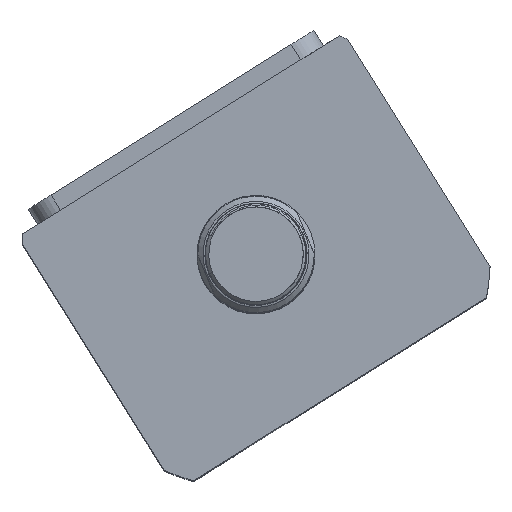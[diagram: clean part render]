
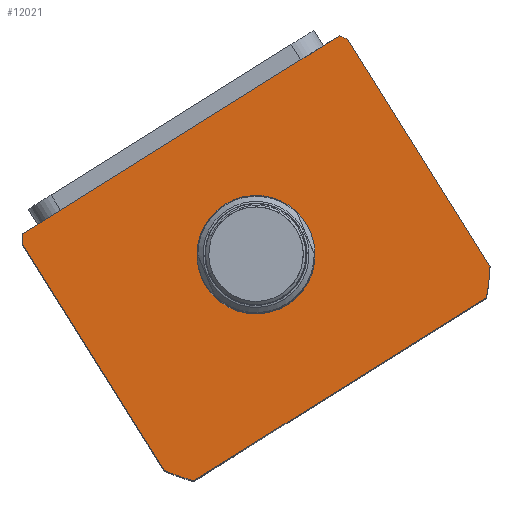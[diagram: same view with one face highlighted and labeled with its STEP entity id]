
A CAD part, top view. The second image highlights one B-rep face of the part: STEP entity #12021.
In plain terms, the highlighted planar face has unit normal (0, 0, 1) as drawn and (0, 0, -1) by its records, which use the part's own axes.
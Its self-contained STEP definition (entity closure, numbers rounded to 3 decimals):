
#661 = FACE_BOUND ( 'NONE', #13777, .T. ) ;
#1130 = ORIENTED_EDGE ( 'NONE', *, *, #12966, .F. ) ;
#1733 = CIRCLE ( 'NONE', #27547, 17.5 ) ;
#2199 = ORIENTED_EDGE ( 'NONE', *, *, #17024, .F. ) ;
#2302 = CARTESIAN_POINT ( 'NONE',  ( 51.198, -106.497, 0. ) ) ;
#2580 = CARTESIAN_POINT ( 'NONE',  ( 0., -59.497, 0. ) ) ;
#3045 = EDGE_CURVE ( 'NONE', #8653, #10932, #8684, .T. ) ;
#3367 = CARTESIAN_POINT ( 'NONE',  ( -57., -17.497, 0. ) ) ;
#3778 = VECTOR ( 'NONE', #19957, 1000. ) ;
#4776 = DIRECTION ( 'NONE',  ( 1., 0., 0. ) ) ;
#4936 = EDGE_CURVE ( 'NONE', #21967, #16767, #8084, .T. ) ;
#5815 = AXIS2_PLACEMENT_3D ( 'NONE', #21946, #7425, #22632 ) ;
#5899 = CARTESIAN_POINT ( 'NONE',  ( 17.5, -59.497, 0. ) ) ;
#7093 = CARTESIAN_POINT ( 'NONE',  ( 0., -59.497, 0. ) ) ;
#7235 = PLANE ( 'NONE',  #7347 ) ;
#7271 = CARTESIAN_POINT ( 'NONE',  ( -57., -19.732, 0. ) ) ;
#7347 = AXIS2_PLACEMENT_3D ( 'NONE', #18143, #11396, #9463 ) ;
#7356 = DIRECTION ( 'NONE',  ( 0., 0., 1. ) ) ;
#7419 = AXIS2_PLACEMENT_3D ( 'NONE', #20439, #7356, #22559 ) ;
#7425 = DIRECTION ( 'NONE',  ( 0., 0., 1. ) ) ;
#7986 = VECTOR ( 'NONE', #18763, 1000. ) ;
#8084 = CIRCLE ( 'NONE', #5815, 69.5 ) ;
#8164 = ORIENTED_EDGE ( 'NONE', *, *, #4936, .F. ) ;
#8562 = CARTESIAN_POINT ( 'NONE',  ( -57., -106.497, 0. ) ) ;
#8653 = VERTEX_POINT ( 'NONE', #7271 ) ;
#8684 = LINE ( 'NONE', #3367, #7986 ) ;
#9072 = VERTEX_POINT ( 'NONE', #23499 ) ;
#9090 = ORIENTED_EDGE ( 'NONE', *, *, #13301, .T. ) ;
#9130 = CARTESIAN_POINT ( 'NONE',  ( 0., -59.497, 0. ) ) ;
#9144 = DIRECTION ( 'NONE',  ( 0., 0., 1. ) ) ;
#9308 = DIRECTION ( 'NONE',  ( 1., 0., 0. ) ) ;
#9463 = DIRECTION ( 'NONE',  ( 1., 0., 0. ) ) ;
#9547 = VECTOR ( 'NONE', #16770, 1000. ) ;
#10932 = VERTEX_POINT ( 'NONE', #25574 ) ;
#10948 = FACE_OUTER_BOUND ( 'NONE', #18214, .T. ) ;
#11349 = DIRECTION ( 'NONE',  ( 1., 0., 0. ) ) ;
#11396 = DIRECTION ( 'NONE',  ( 0., 0., 1. ) ) ;
#12021 = ADVANCED_FACE ( 'NONE', ( #661, #10948 ), #7235, .F. ) ;
#12966 = EDGE_CURVE ( 'NONE', #21740, #23454, #26747, .T. ) ;
#13036 = CARTESIAN_POINT ( 'NONE',  ( 57., -99.262, 0. ) ) ;
#13301 = EDGE_CURVE ( 'NONE', #16088, #23388, #1733, .T. ) ;
#13628 = VERTEX_POINT ( 'NONE', #14146 ) ;
#13777 = EDGE_LOOP ( 'NONE', ( #9090, #23630 ) ) ;
#14146 = CARTESIAN_POINT ( 'NONE',  ( 57., -19.732, 0. ) ) ;
#14771 = AXIS2_PLACEMENT_3D ( 'NONE', #22157, #9144, #24247 ) ;
#16088 = VERTEX_POINT ( 'NONE', #5899 ) ;
#16629 = CARTESIAN_POINT ( 'NONE',  ( 55.374, -17.497, 0. ) ) ;
#16767 = VERTEX_POINT ( 'NONE', #13036 ) ;
#16770 = DIRECTION ( 'NONE',  ( 1., 0., 0. ) ) ;
#17024 = EDGE_CURVE ( 'NONE', #10932, #9072, #18759, .T. ) ;
#17299 = CIRCLE ( 'NONE', #24804, 69.5 ) ;
#17329 = EDGE_CURVE ( 'NONE', #23388, #16088, #23086, .T. ) ;
#17663 = CARTESIAN_POINT ( 'NONE',  ( -17.5, -59.497, 0. ) ) ;
#17764 = CARTESIAN_POINT ( 'NONE',  ( -57., -17.497, 0. ) ) ;
#17880 = DIRECTION ( 'NONE',  ( 0., 0., 1. ) ) ;
#18143 = CARTESIAN_POINT ( 'NONE',  ( 0., 0., 0. ) ) ;
#18214 = EDGE_LOOP ( 'NONE', ( #20015, #27787, #8164, #24878, #2199, #20620, #18583, #1130 ) ) ;
#18583 = ORIENTED_EDGE ( 'NONE', *, *, #24542, .F. ) ;
#18759 = CIRCLE ( 'NONE', #7419, 69.5 ) ;
#18763 = DIRECTION ( 'NONE',  ( 0., -1., 0. ) ) ;
#19957 = DIRECTION ( 'NONE',  ( -1., 0., 0. ) ) ;
#20015 = ORIENTED_EDGE ( 'NONE', *, *, #25142, .F. ) ;
#20018 = VECTOR ( 'NONE', #27727, 1000. ) ;
#20439 = CARTESIAN_POINT ( 'NONE',  ( 0., -59.497, 0. ) ) ;
#20620 = ORIENTED_EDGE ( 'NONE', *, *, #3045, .F. ) ;
#20677 = LINE ( 'NONE', #25639, #20018 ) ;
#21740 = VERTEX_POINT ( 'NONE', #16629 ) ;
#21946 = CARTESIAN_POINT ( 'NONE',  ( 0., -59.497, 0. ) ) ;
#21967 = VERTEX_POINT ( 'NONE', #2302 ) ;
#22157 = CARTESIAN_POINT ( 'NONE',  ( 0., -59.497, 0. ) ) ;
#22312 = DIRECTION ( 'NONE',  ( 0., 0., 1. ) ) ;
#22559 = DIRECTION ( 'NONE',  ( 1., 0., 0. ) ) ;
#22632 = DIRECTION ( 'NONE',  ( 1., 0., 0. ) ) ;
#23086 = CIRCLE ( 'NONE', #14771, 17.5 ) ;
#23243 = EDGE_CURVE ( 'NONE', #9072, #21967, #26665, .T. ) ;
#23388 = VERTEX_POINT ( 'NONE', #17663 ) ;
#23454 = VERTEX_POINT ( 'NONE', #24177 ) ;
#23499 = CARTESIAN_POINT ( 'NONE',  ( -51.198, -106.497, 0. ) ) ;
#23630 = ORIENTED_EDGE ( 'NONE', *, *, #17329, .T. ) ;
#23985 = CIRCLE ( 'NONE', #27062, 69.5 ) ;
#24177 = CARTESIAN_POINT ( 'NONE',  ( -55.374, -17.497, 0. ) ) ;
#24228 = DIRECTION ( 'NONE',  ( 0., 0., 1. ) ) ;
#24247 = DIRECTION ( 'NONE',  ( 1., 0., 0. ) ) ;
#24542 = EDGE_CURVE ( 'NONE', #23454, #8653, #17299, .T. ) ;
#24804 = AXIS2_PLACEMENT_3D ( 'NONE', #9130, #24228, #11349 ) ;
#24878 = ORIENTED_EDGE ( 'NONE', *, *, #23243, .F. ) ;
#25142 = EDGE_CURVE ( 'NONE', #13628, #21740, #23985, .T. ) ;
#25574 = CARTESIAN_POINT ( 'NONE',  ( -57., -99.262, 0. ) ) ;
#25639 = CARTESIAN_POINT ( 'NONE',  ( 57., -17.497, 0. ) ) ;
#25847 = EDGE_CURVE ( 'NONE', #16767, #13628, #20677, .T. ) ;
#26665 = LINE ( 'NONE', #8562, #9547 ) ;
#26747 = LINE ( 'NONE', #17764, #3778 ) ;
#27062 = AXIS2_PLACEMENT_3D ( 'NONE', #2580, #17880, #4776 ) ;
#27547 = AXIS2_PLACEMENT_3D ( 'NONE', #7093, #22312, #9308 ) ;
#27727 = DIRECTION ( 'NONE',  ( 0., 1., 0. ) ) ;
#27787 = ORIENTED_EDGE ( 'NONE', *, *, #25847, .F. ) ;
